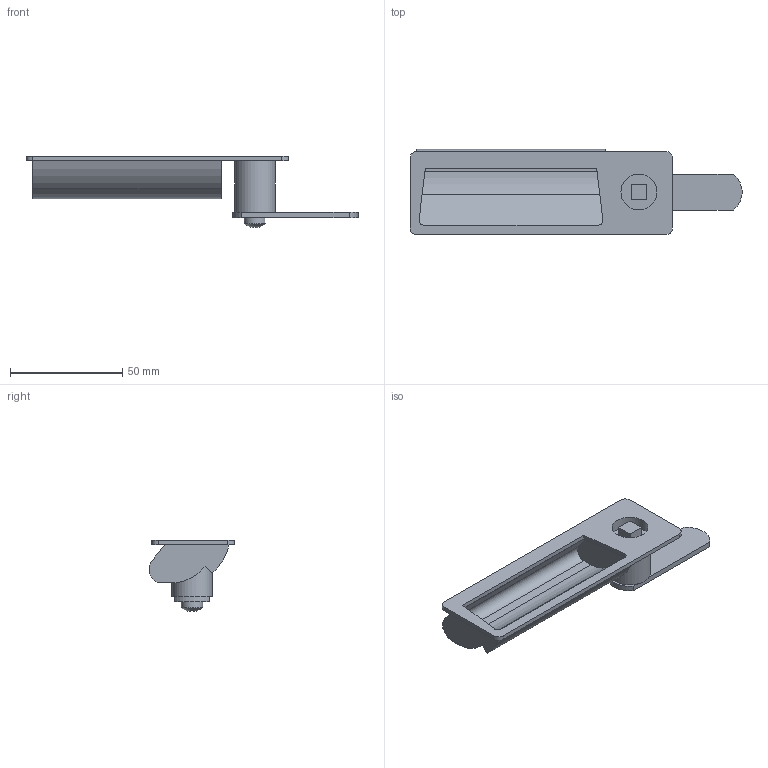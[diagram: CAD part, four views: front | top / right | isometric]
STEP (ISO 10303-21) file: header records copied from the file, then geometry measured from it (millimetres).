
FILE_DESCRIPTION( ( 'STEP AP203' ), '1' );
FILE_NAME( 'C:/Temp/Ganter_Step_05_03_2020/data/3_3/gn731_5/gn731_5_2/Latche with gripping tray GN 731.5-VK-0-46-2-SG (0-23).stp', '2020-03-12T11:49:34', ( 'License CC BY-ND 4.0' ), ( 'CADENAS' ), ' ', 'PARTsolutions', ' ' );
FILE_SCHEMA( ( 'CONFIG_CONTROL_DESIGN' ) );
Length unit declared in the file: millimetre
Products named in the file (3): Latche with gripping tray GN 731.5-VK-0-46-2-SG (0-23); _Latche with gripping tray GN 731.5-VK-0-46-2-SG (0)_1; _Latche with gripping tray GN 731.5-VK-0-46-2-SG (0-23)_2
Assembly tree (2 placements, depth 2):
  Latche with gripping tray GN 731.5-VK-0-46-2-SG (0-23)
    _Latche with gripping tray GN 731.5-VK-0-46-2-SG (0)_1
    _Latche with gripping tray GN 731.5-VK-0-46-2-SG (0-23)_2
Bounding box: 147.96 x 38 x 31.88 mm (x, y, z)
Volume: 24403.7 mm3; surface area: 20509.1 mm2
Topology: 2 solids, 2 shells, 85 faces, 215 edges, 140 vertices
Faces by surface type: plane 64, cylinder 20, sphere 1
Full cylindrical faces by diameter (mm): 9.5 x1, 16 x1, 18 x1
Entity records: 2615 total; most frequent: DIRECTION 445, CARTESIAN_POINT 433, ORIENTED_EDGE 416, EDGE_CURVE 208, AXIS2_PLACEMENT_3D 149, LINE 147, VECTOR 147, VERTEX_POINT 137
